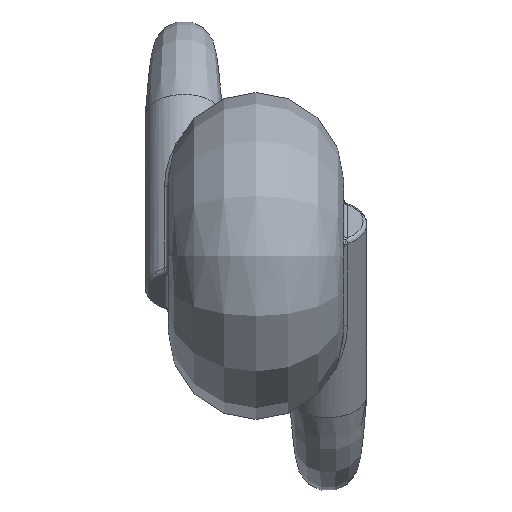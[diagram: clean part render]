
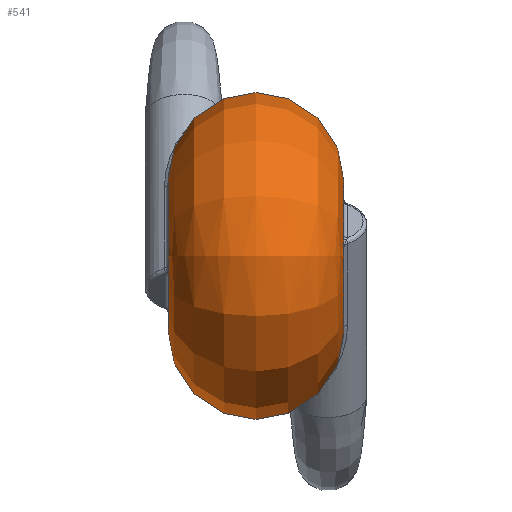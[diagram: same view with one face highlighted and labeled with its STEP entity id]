
A CAD part, left-side view. The second image highlights one B-rep face of the part: STEP entity #541.
In plain terms, the highlighted free-form (B-spline) face has degree [2, 2] with [5, 9] control points.
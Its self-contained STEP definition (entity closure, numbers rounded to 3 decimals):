
#14=(
BOUNDED_CURVE()
B_SPLINE_CURVE(2,(#1957,#1958,#1959,#1960,#1961),.UNSPECIFIED.,.F.,.F.)
B_SPLINE_CURVE_WITH_KNOTS((3,2,3),(-1.571,0.,1.571),
 .UNSPECIFIED.)
CURVE()
GEOMETRIC_REPRESENTATION_ITEM()
RATIONAL_B_SPLINE_CURVE((1.,0.707,1.,0.707,1.))
REPRESENTATION_ITEM('')
);
#15=(
BOUNDED_SURFACE()
B_SPLINE_SURFACE(2,2,((#1911,#1912,#1913,#1914,#1915,#1916,#1917,#1918,
#1919),(#1920,#1921,#1922,#1923,#1924,#1925,#1926,#1927,#1928),(#1929,#1930,
#1931,#1932,#1933,#1934,#1935,#1936,#1937),(#1938,#1939,#1940,#1941,#1942,
#1943,#1944,#1945,#1946),(#1947,#1948,#1949,#1950,#1951,#1952,#1953,#1954,
#1955)),.UNSPECIFIED.,.F.,.T.,.F.)
B_SPLINE_SURFACE_WITH_KNOTS((3,2,3),(3,2,2,2,3),(-1.571,0.,1.571),
(-3.142,-1.571,0.,1.571,3.142),
 .UNSPECIFIED.)
GEOMETRIC_REPRESENTATION_ITEM()
RATIONAL_B_SPLINE_SURFACE(((1.,0.707,1.,0.707,1.,
0.707,1.,0.707,1.),(0.707,0.5,0.707,
0.5,0.707,0.5,0.707,0.5,0.707),(1.,
0.707,1.,0.707,1.,0.707,1.,0.707,
1.),(0.707,0.5,0.707,0.5,0.707,0.5,
0.707,0.5,0.707),(1.,0.707,1.,0.707,
1.,0.707,1.,0.707,1.)))
REPRESENTATION_ITEM('')
SURFACE()
);
#78=B_SPLINE_CURVE_WITH_KNOTS('',3,(#1891,#1892,#1893,#1894,#1895,#1896,
#1897,#1898,#1899,#1900,#1901,#1902,#1903,#1904),.UNSPECIFIED.,.F.,.F.,
(4,1,1,1,1,1,1,1,1,1,1,4),(-0.821,-0.762,-0.704,
-0.586,-0.469,-0.41,-0.352,
-0.293,-0.235,-0.117,-0.059,
0.),.UNSPECIFIED.);
#79=B_SPLINE_CURVE_WITH_KNOTS('',3,(#1965,#1966,#1967,#1968,#1969,#1970,
#1971,#1972,#1973,#1974,#1975,#1976,#1977,#1978),.UNSPECIFIED.,.F.,.F.,
(4,1,1,1,1,1,1,1,1,1,1,4),(-0.821,-0.762,-0.704,
-0.586,-0.469,-0.41,-0.352,
-0.293,-0.235,-0.117,-0.059,
0.),.UNSPECIFIED.);
#126=FACE_OUTER_BOUND('',#167,.T.);
#167=EDGE_LOOP('',(#432,#433,#434,#435,#436,#437,#438,#439));
#204=CIRCLE('',#595,1.945);
#205=CIRCLE('',#596,1.945);
#206=CIRCLE('',#597,1.945);
#207=CIRCLE('',#598,1.945);
#246=VERTEX_POINT('',#1816);
#247=VERTEX_POINT('',#1889);
#248=VERTEX_POINT('',#1908);
#249=VERTEX_POINT('',#1956);
#250=VERTEX_POINT('',#1962);
#251=VERTEX_POINT('',#1964);
#311=EDGE_CURVE('',#247,#246,#78,.T.);
#313=EDGE_CURVE('',#247,#248,#204,.T.);
#314=EDGE_CURVE('',#248,#246,#205,.T.);
#315=EDGE_CURVE('',#248,#249,#14,.T.);
#316=EDGE_CURVE('',#250,#249,#206,.T.);
#317=EDGE_CURVE('',#250,#251,#79,.T.);
#318=EDGE_CURVE('',#249,#251,#207,.T.);
#432=ORIENTED_EDGE('',*,*,#311,.T.);
#433=ORIENTED_EDGE('',*,*,#314,.F.);
#434=ORIENTED_EDGE('',*,*,#315,.T.);
#435=ORIENTED_EDGE('',*,*,#316,.F.);
#436=ORIENTED_EDGE('',*,*,#317,.T.);
#437=ORIENTED_EDGE('',*,*,#318,.F.);
#438=ORIENTED_EDGE('',*,*,#315,.F.);
#439=ORIENTED_EDGE('',*,*,#313,.F.);
#541=ADVANCED_FACE('',(#126),#15,.T.);
#595=AXIS2_PLACEMENT_3D('',#1909,#708,#709);
#596=AXIS2_PLACEMENT_3D('',#1910,#710,#711);
#597=AXIS2_PLACEMENT_3D('',#1963,#712,#713);
#598=AXIS2_PLACEMENT_3D('',#1979,#714,#715);
#708=DIRECTION('center_axis',(0.,1.,0.));
#709=DIRECTION('ref_axis',(-1.,0.,0.));
#710=DIRECTION('center_axis',(0.,1.,0.));
#711=DIRECTION('ref_axis',(-1.,0.,0.));
#712=DIRECTION('center_axis',(0.,-1.,0.));
#713=DIRECTION('ref_axis',(-1.,0.,0.));
#714=DIRECTION('center_axis',(0.,-1.,0.));
#715=DIRECTION('ref_axis',(-1.,0.,0.));
#1816=CARTESIAN_POINT('',(0.562,3.7,1.862));
#1889=CARTESIAN_POINT('',(1.934,3.7,0.207));
#1891=CARTESIAN_POINT('Ctrl Pts',(1.934,3.7,0.207));
#1892=CARTESIAN_POINT('Ctrl Pts',(2.036,3.7,0.366));
#1893=CARTESIAN_POINT('Ctrl Pts',(2.248,3.681,0.672));
#1894=CARTESIAN_POINT('Ctrl Pts',(2.712,3.505,1.21));
#1895=CARTESIAN_POINT('Ctrl Pts',(3.248,2.997,1.768));
#1896=CARTESIAN_POINT('Ctrl Pts',(3.266,2.29,2.439));
#1897=CARTESIAN_POINT('Ctrl Pts',(2.835,2.011,3.018));
#1898=CARTESIAN_POINT('Ctrl Pts',(2.379,2.062,3.374));
#1899=CARTESIAN_POINT('Ctrl Pts',(1.918,2.364,3.537));
#1900=CARTESIAN_POINT('Ctrl Pts',(1.434,2.925,3.423));
#1901=CARTESIAN_POINT('Ctrl Pts',(1.154,3.415,2.926));
#1902=CARTESIAN_POINT('Ctrl Pts',(0.861,3.659,2.315));
#1903=CARTESIAN_POINT('Ctrl Pts',(0.67,3.7,2.008));
#1904=CARTESIAN_POINT('Ctrl Pts',(0.562,3.7,1.862));
#1908=CARTESIAN_POINT('',(-1.945,3.7,0.));
#1909=CARTESIAN_POINT('Origin',(0.,3.7,0.));
#1910=CARTESIAN_POINT('Origin',(0.,3.7,0.));
#1911=CARTESIAN_POINT('Ctrl Pts',(-1.945,-0.81,0.));
#1912=CARTESIAN_POINT('Ctrl Pts',(-1.945,-0.81,-1.945));
#1913=CARTESIAN_POINT('Ctrl Pts',(0.,-0.81,-1.945));
#1914=CARTESIAN_POINT('Ctrl Pts',(1.945,-0.81,-1.945));
#1915=CARTESIAN_POINT('Ctrl Pts',(1.945,-0.81,0.));
#1916=CARTESIAN_POINT('Ctrl Pts',(1.945,-0.81,1.945));
#1917=CARTESIAN_POINT('Ctrl Pts',(0.,-0.81,1.945));
#1918=CARTESIAN_POINT('Ctrl Pts',(-1.945,-0.81,1.945));
#1919=CARTESIAN_POINT('Ctrl Pts',(-1.945,-0.81,0.));
#1920=CARTESIAN_POINT('Ctrl Pts',(-4.2,-0.81,0.));
#1921=CARTESIAN_POINT('Ctrl Pts',(-4.2,-0.81,-4.2));
#1922=CARTESIAN_POINT('Ctrl Pts',(0.,-0.81,-4.2));
#1923=CARTESIAN_POINT('Ctrl Pts',(4.2,-0.81,-4.2));
#1924=CARTESIAN_POINT('Ctrl Pts',(4.2,-0.81,0.));
#1925=CARTESIAN_POINT('Ctrl Pts',(4.2,-0.81,4.2));
#1926=CARTESIAN_POINT('Ctrl Pts',(0.,-0.81,4.2));
#1927=CARTESIAN_POINT('Ctrl Pts',(-4.2,-0.81,4.2));
#1928=CARTESIAN_POINT('Ctrl Pts',(-4.2,-0.81,0.));
#1929=CARTESIAN_POINT('Ctrl Pts',(-4.2,1.445,0.));
#1930=CARTESIAN_POINT('Ctrl Pts',(-4.2,1.445,-4.2));
#1931=CARTESIAN_POINT('Ctrl Pts',(0.,1.445,-4.2));
#1932=CARTESIAN_POINT('Ctrl Pts',(4.2,1.445,-4.2));
#1933=CARTESIAN_POINT('Ctrl Pts',(4.2,1.445,0.));
#1934=CARTESIAN_POINT('Ctrl Pts',(4.2,1.445,4.2));
#1935=CARTESIAN_POINT('Ctrl Pts',(0.,1.445,4.2));
#1936=CARTESIAN_POINT('Ctrl Pts',(-4.2,1.445,4.2));
#1937=CARTESIAN_POINT('Ctrl Pts',(-4.2,1.445,0.));
#1938=CARTESIAN_POINT('Ctrl Pts',(-4.2,3.7,0.));
#1939=CARTESIAN_POINT('Ctrl Pts',(-4.2,3.7,-4.2));
#1940=CARTESIAN_POINT('Ctrl Pts',(0.,3.7,-4.2));
#1941=CARTESIAN_POINT('Ctrl Pts',(4.2,3.7,-4.2));
#1942=CARTESIAN_POINT('Ctrl Pts',(4.2,3.7,0.));
#1943=CARTESIAN_POINT('Ctrl Pts',(4.2,3.7,4.2));
#1944=CARTESIAN_POINT('Ctrl Pts',(0.,3.7,4.2));
#1945=CARTESIAN_POINT('Ctrl Pts',(-4.2,3.7,4.2));
#1946=CARTESIAN_POINT('Ctrl Pts',(-4.2,3.7,0.));
#1947=CARTESIAN_POINT('Ctrl Pts',(-1.945,3.7,0.));
#1948=CARTESIAN_POINT('Ctrl Pts',(-1.945,3.7,-1.945));
#1949=CARTESIAN_POINT('Ctrl Pts',(0.,3.7,-1.945));
#1950=CARTESIAN_POINT('Ctrl Pts',(1.945,3.7,-1.945));
#1951=CARTESIAN_POINT('Ctrl Pts',(1.945,3.7,0.));
#1952=CARTESIAN_POINT('Ctrl Pts',(1.945,3.7,1.945));
#1953=CARTESIAN_POINT('Ctrl Pts',(0.,3.7,1.945));
#1954=CARTESIAN_POINT('Ctrl Pts',(-1.945,3.7,1.945));
#1955=CARTESIAN_POINT('Ctrl Pts',(-1.945,3.7,0.));
#1956=CARTESIAN_POINT('',(-1.945,-0.81,0.));
#1957=CARTESIAN_POINT('Ctrl Pts',(-1.945,3.7,0.));
#1958=CARTESIAN_POINT('Ctrl Pts',(-4.2,3.7,0.));
#1959=CARTESIAN_POINT('Ctrl Pts',(-4.2,1.445,0.));
#1960=CARTESIAN_POINT('Ctrl Pts',(-4.2,-0.81,0.));
#1961=CARTESIAN_POINT('Ctrl Pts',(-1.945,-0.81,0.));
#1962=CARTESIAN_POINT('',(1.934,-0.81,-0.207));
#1963=CARTESIAN_POINT('Origin',(0.,-0.81,0.));
#1964=CARTESIAN_POINT('',(0.562,-0.81,-1.862));
#1965=CARTESIAN_POINT('Ctrl Pts',(1.934,-0.81,-0.207));
#1966=CARTESIAN_POINT('Ctrl Pts',(2.036,-0.81,-0.366));
#1967=CARTESIAN_POINT('Ctrl Pts',(2.248,-0.791,-0.672));
#1968=CARTESIAN_POINT('Ctrl Pts',(2.712,-0.615,-1.21));
#1969=CARTESIAN_POINT('Ctrl Pts',(3.248,-0.107,-1.768));
#1970=CARTESIAN_POINT('Ctrl Pts',(3.266,0.6,-2.439));
#1971=CARTESIAN_POINT('Ctrl Pts',(2.835,0.879,-3.018));
#1972=CARTESIAN_POINT('Ctrl Pts',(2.379,0.828,-3.374));
#1973=CARTESIAN_POINT('Ctrl Pts',(1.918,0.526,-3.538));
#1974=CARTESIAN_POINT('Ctrl Pts',(1.434,-0.035,
-3.423));
#1975=CARTESIAN_POINT('Ctrl Pts',(1.154,-0.525,-2.926));
#1976=CARTESIAN_POINT('Ctrl Pts',(0.861,-0.769,
-2.315));
#1977=CARTESIAN_POINT('Ctrl Pts',(0.67,-0.81,-2.008));
#1978=CARTESIAN_POINT('Ctrl Pts',(0.562,-0.81,-1.862));
#1979=CARTESIAN_POINT('Origin',(0.,-0.81,0.));
